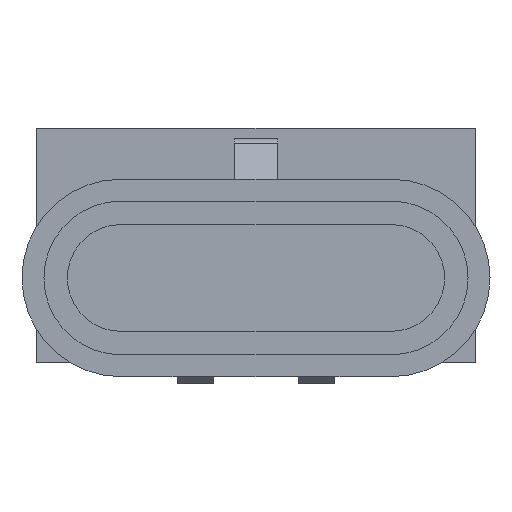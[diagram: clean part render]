
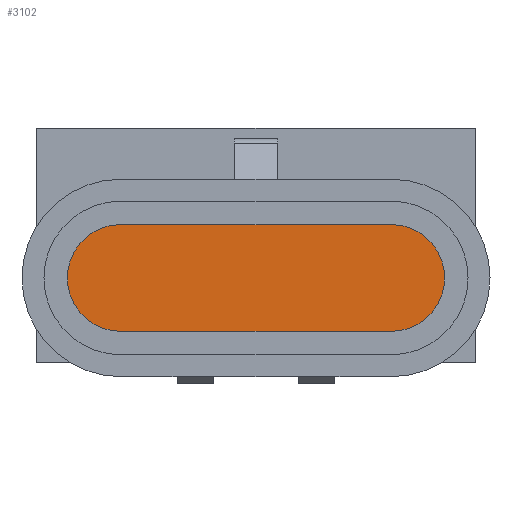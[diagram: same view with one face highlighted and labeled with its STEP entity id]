
A CAD part, front view. The second image highlights one B-rep face of the part: STEP entity #3102.
In plain terms, the highlighted planar face has unit normal (0, -1, 0) as drawn and (0, 0, -1) by its records, which use the part's own axes.
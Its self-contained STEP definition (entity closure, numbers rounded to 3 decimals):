
#227=LINE('',#4817,#465);
#231=LINE('',#4829,#469);
#465=VECTOR('',#3903,18.5);
#469=VECTOR('',#3915,18.5);
#630=PLANE('',#3352);
#790=FACE_OUTER_BOUND('',#991,.T.);
#991=EDGE_LOOP('',(#2307,#2308,#2309,#2310));
#1187=CIRCLE('',#3347,3.65);
#1189=CIRCLE('',#3351,3.65);
#1396=VERTEX_POINT('',#4814);
#1397=VERTEX_POINT('',#4816);
#1399=VERTEX_POINT('',#4822);
#1401=VERTEX_POINT('',#4828);
#1727=EDGE_CURVE('',#1397,#1396,#227,.T.);
#1730=EDGE_CURVE('',#1399,#1397,#1187,.T.);
#1733=EDGE_CURVE('',#1401,#1399,#231,.T.);
#1736=EDGE_CURVE('',#1396,#1401,#1189,.T.);
#2307=ORIENTED_EDGE('',*,*,#1730,.T.);
#2308=ORIENTED_EDGE('',*,*,#1727,.T.);
#2309=ORIENTED_EDGE('',*,*,#1736,.T.);
#2310=ORIENTED_EDGE('',*,*,#1733,.T.);
#3102=ADVANCED_FACE('',(#790),#630,.F.);
#3347=AXIS2_PLACEMENT_3D('',#4823,#3909,#3910);
#3351=AXIS2_PLACEMENT_3D('',#4833,#3921,#3922);
#3352=AXIS2_PLACEMENT_3D('',#4834,#3923,#3924);
#3903=DIRECTION('',(1.,0.,0.));
#3909=DIRECTION('center_axis',(0.,0.,-1.));
#3910=DIRECTION('ref_axis',(1.,0.,0.));
#3915=DIRECTION('',(-1.,0.,0.));
#3921=DIRECTION('center_axis',(0.,0.,-1.));
#3922=DIRECTION('ref_axis',(1.,0.,0.));
#3923=DIRECTION('center_axis',(0.,0.,1.));
#3924=DIRECTION('ref_axis',(1.,0.,0.));
#4814=CARTESIAN_POINT('',(9.25,-2.1,-59.5));
#4816=CARTESIAN_POINT('',(-9.25,-2.1,-59.5));
#4817=CARTESIAN_POINT('',(-9.25,-2.1,-59.5));
#4822=CARTESIAN_POINT('',(-9.25,-9.4,-59.5));
#4823=CARTESIAN_POINT('Origin',(-9.25,-5.75,-59.5));
#4828=CARTESIAN_POINT('',(9.25,-9.4,-59.5));
#4829=CARTESIAN_POINT('',(9.25,-9.4,-59.5));
#4833=CARTESIAN_POINT('Origin',(9.25,-5.75,-59.5));
#4834=CARTESIAN_POINT('Origin',(-9.25,-5.75,-59.5));
